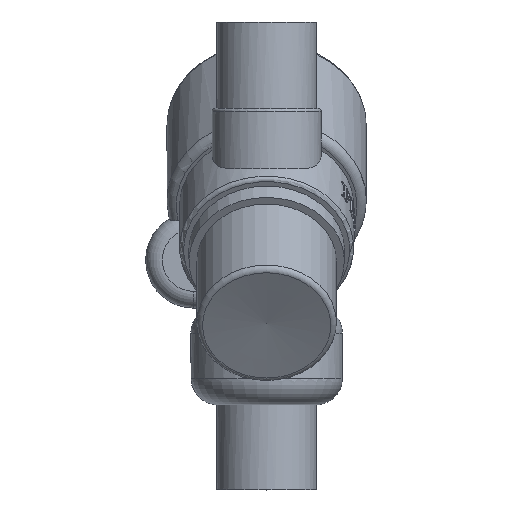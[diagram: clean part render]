
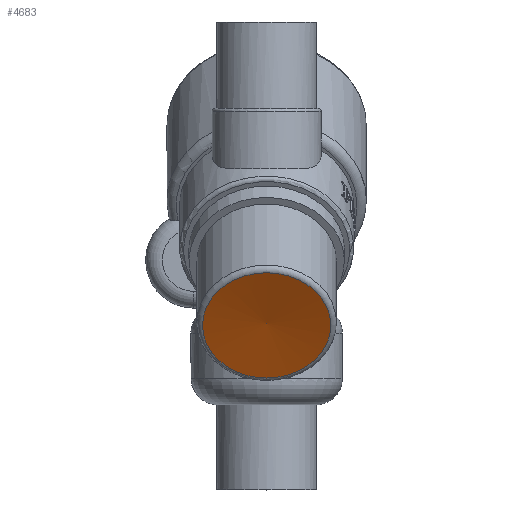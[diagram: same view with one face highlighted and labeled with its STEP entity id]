
A CAD part, top view. The second image highlights one B-rep face of the part: STEP entity #4683.
In plain terms, the highlighted conical face has half-angle 87.144 degrees and reference radius 13.328 mm.
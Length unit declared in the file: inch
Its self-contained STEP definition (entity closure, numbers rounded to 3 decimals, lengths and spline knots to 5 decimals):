
#52=CONICAL_SURFACE('',#5013,0.5247,1.521);
#128=CIRCLE('',#5003,0.48271);
#132=CIRCLE('',#5007,0.48271);
#561=FACE_OUTER_BOUND('',#827,.T.);
#827=EDGE_LOOP('',(#3811,#3812,#3813,#3814));
#1413=LINE('',#8984,#1685);
#1685=VECTOR('',#5846,0.5247);
#2056=VERTEX_POINT('',#8954);
#2057=VERTEX_POINT('',#8955);
#2065=VERTEX_POINT('',#8983);
#2660=EDGE_CURVE('',#2056,#2057,#128,.T.);
#2664=EDGE_CURVE('',#2057,#2056,#132,.T.);
#2672=EDGE_CURVE('',#2056,#2065,#1413,.T.);
#3811=ORIENTED_EDGE('',*,*,#2660,.F.);
#3812=ORIENTED_EDGE('',*,*,#2672,.T.);
#3813=ORIENTED_EDGE('',*,*,#2672,.F.);
#3814=ORIENTED_EDGE('',*,*,#2664,.F.);
#4683=ADVANCED_FACE('',(#561),#52,.F.);
#5003=AXIS2_PLACEMENT_3D('',#8956,#5823,#5824);
#5007=AXIS2_PLACEMENT_3D('',#8962,#5831,#5832);
#5013=AXIS2_PLACEMENT_3D('',#8982,#5844,#5845);
#5823=DIRECTION('center_axis',(0.,0.574,
-0.819));
#5824=DIRECTION('ref_axis',(0.,0.819,0.574));
#5831=DIRECTION('center_axis',(0.,0.574,
-0.819));
#5832=DIRECTION('ref_axis',(0.,0.819,0.574));
#5844=DIRECTION('center_axis',(0.,-0.574,
0.819));
#5845=DIRECTION('ref_axis',(0.,-0.819,-0.574));
#5846=DIRECTION('',(0.,-0.79,-0.614));
#8954=CARTESIAN_POINT('',(-0.72146,-0.5082,2.64229));
#8955=CARTESIAN_POINT('',(-1.20417,-0.90361,2.36542));
#8956=CARTESIAN_POINT('Origin',(-0.72146,-0.90361,2.36542));
#8962=CARTESIAN_POINT('Origin',(-0.72146,-0.90361,2.36542));
#8982=CARTESIAN_POINT('Origin',(-0.72146,-0.90482,2.36713));
#8983=CARTESIAN_POINT('',(-0.72146,-0.8898,2.34569));
#8984=CARTESIAN_POINT('',(-0.72146,-0.475,2.66809));
